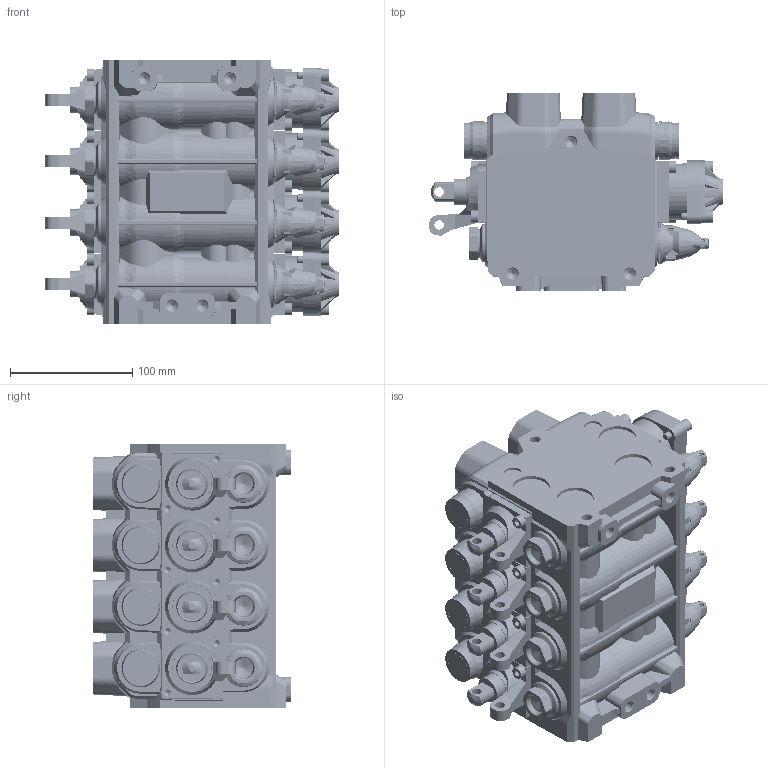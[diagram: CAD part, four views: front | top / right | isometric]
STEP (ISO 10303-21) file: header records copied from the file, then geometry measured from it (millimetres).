
FILE_DESCRIPTION (( 'STEP AP203' ), '1' );
FILE_NAME ('S-V3364B.STEP', '2018-05-22T13:03:14', ( '' ), ( '' ), 'SwSTEP 2.0', 'SolidWorks 2018', '' );
FILE_SCHEMA (( 'CONFIG_CONTROL_DESIGN' ));
Products named in the file (1): S-V3364B
Bounding box: 240 x 162 x 216.9 mm (x, y, z)
Surface area: 496992.4 mm2 (no closed solid volume)
Topology: 0 solids, 89 shells, 6693 faces, 16728 edges, 9990 vertices
Faces by surface type: plane 2068, bspline 1816, cylinder 1713, cone 784, torus 208, sphere 104
Entity records: 275822 total; most frequent: CARTESIAN_POINT 136995, ORIENTED_EDGE 32152, DIRECTION 24310, EDGE_CURVE 16380, VERTEX_POINT 9990, AXIS2_PLACEMENT_3D 9110, EDGE_LOOP 7006, ADVANCED_FACE 6693
